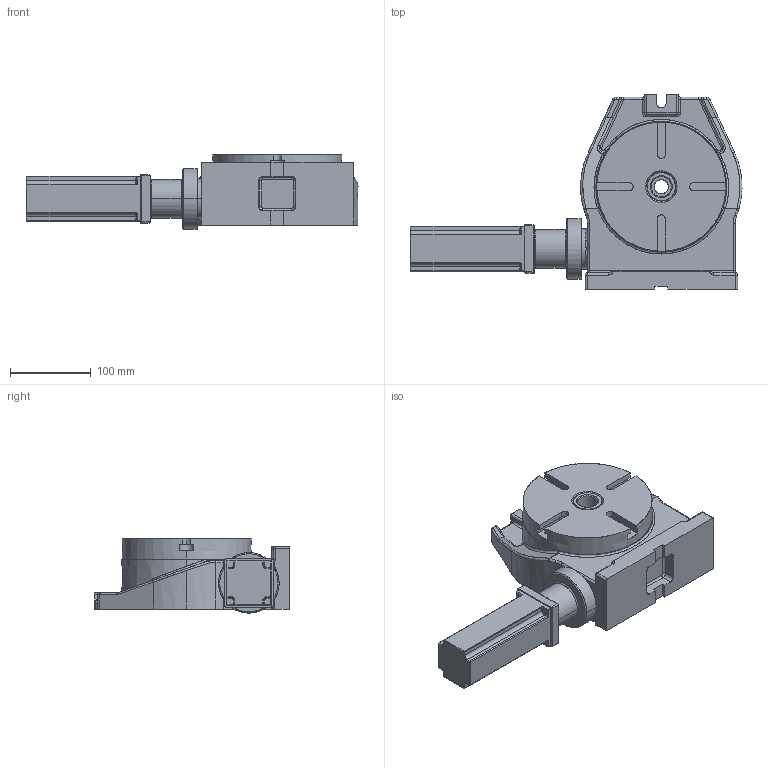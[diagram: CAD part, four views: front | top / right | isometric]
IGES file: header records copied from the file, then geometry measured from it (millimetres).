
Start section: SolidWorks IGES file using analytic representation for surfaces
Global section: file name: R:\Drawings\Files saved as other types\30267_6-INCH_ROTARY_TABLE.IGS; native system: SolidWorks 2012; preprocessor: SolidWorks 2012; author: rtooley; date: 141114.153234; units: millimetre
Bounding box: 411.49 x 241 x 92 mm (x, y, z)
Surface area: 230808.3 mm2 (no closed solid volume)
Topology: 0 solids, 0 shells, 359 faces, 3929 edges, 3903 vertices
Faces by surface type: revolution 182, bspline 177
